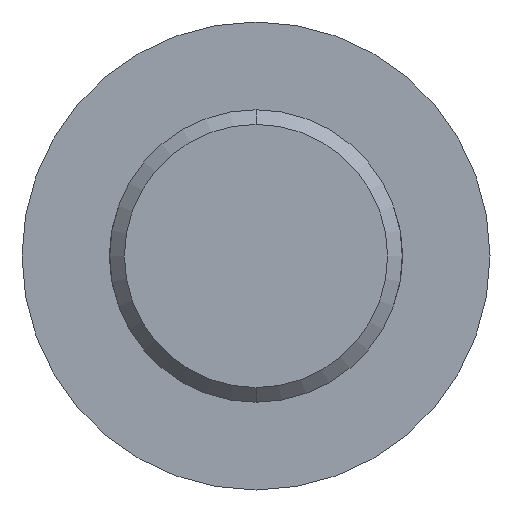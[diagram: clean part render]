
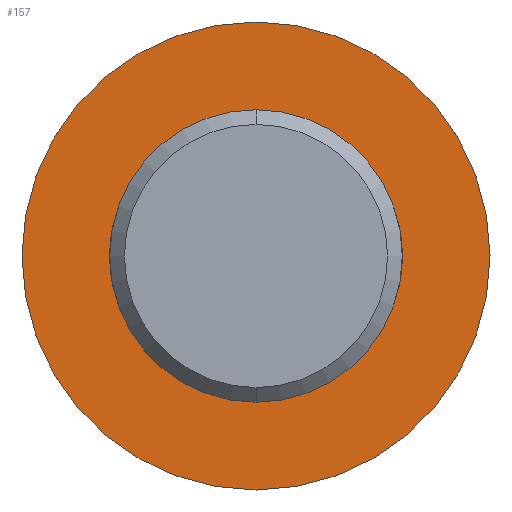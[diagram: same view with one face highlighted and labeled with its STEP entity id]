
A CAD part, front view. The second image highlights one B-rep face of the part: STEP entity #157.
In plain terms, the highlighted planar face has unit normal (0, -1, 0).
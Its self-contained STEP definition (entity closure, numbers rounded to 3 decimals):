
#13 = DIRECTION ( 'NONE',  ( 0., 0., 1. ) ) ;
#15 = CIRCLE ( 'NONE', #388, 2.5 ) ;
#19 = CARTESIAN_POINT ( 'NONE',  ( 0., 0., 0. ) ) ;
#33 = FACE_OUTER_BOUND ( 'NONE', #38, .T. ) ;
#34 = CIRCLE ( 'NONE', #91, 2.5 ) ;
#37 = FACE_BOUND ( 'NONE', #429, .T. ) ;
#38 = EDGE_LOOP ( 'NONE', ( #281, #428 ) ) ;
#43 = VERTEX_POINT ( 'NONE', #123 ) ;
#52 = EDGE_CURVE ( 'NONE', #159, #43, #34, .T. ) ;
#53 = DIRECTION ( 'NONE',  ( 0., 1., 0. ) ) ;
#56 = CARTESIAN_POINT ( 'NONE',  ( 0., 0., 4. ) ) ;
#77 = AXIS2_PLACEMENT_3D ( 'NONE', #170, #452, #201 ) ;
#87 = DIRECTION ( 'NONE',  ( 0., -1., 0. ) ) ;
#88 = DIRECTION ( 'NONE',  ( 0., -1., 0. ) ) ;
#91 = AXIS2_PLACEMENT_3D ( 'NONE', #261, #87, #398 ) ;
#96 = CIRCLE ( 'NONE', #154, 4. ) ;
#98 = CARTESIAN_POINT ( 'NONE',  ( 0., 0., -2.5 ) ) ;
#102 = VERTEX_POINT ( 'NONE', #56 ) ;
#123 = CARTESIAN_POINT ( 'NONE',  ( 0., 0., 2.5 ) ) ;
#132 = CIRCLE ( 'NONE', #181, 4. ) ;
#143 = ORIENTED_EDGE ( 'NONE', *, *, #394, .F. ) ;
#144 = CARTESIAN_POINT ( 'NONE',  ( 0., 0., 0. ) ) ;
#153 = DIRECTION ( 'NONE',  ( 0., 0., 1. ) ) ;
#154 = AXIS2_PLACEMENT_3D ( 'NONE', #144, #210, #13 ) ;
#157 = ADVANCED_FACE ( 'NONE', ( #37, #33 ), #308, .F. ) ;
#159 = VERTEX_POINT ( 'NONE', #98 ) ;
#170 = CARTESIAN_POINT ( 'NONE',  ( 0., 0., 0. ) ) ;
#181 = AXIS2_PLACEMENT_3D ( 'NONE', #395, #53, #153 ) ;
#201 = DIRECTION ( 'NONE',  ( 0., 0., 1. ) ) ;
#210 = DIRECTION ( 'NONE',  ( 0., 1., 0. ) ) ;
#261 = CARTESIAN_POINT ( 'NONE',  ( 0., 0., 0. ) ) ;
#277 = EDGE_CURVE ( 'NONE', #280, #102, #132, .T. ) ;
#280 = VERTEX_POINT ( 'NONE', #374 ) ;
#281 = ORIENTED_EDGE ( 'NONE', *, *, #277, .F. ) ;
#308 = PLANE ( 'NONE',  #77 ) ;
#325 = DIRECTION ( 'NONE',  ( 0., 0., -1. ) ) ;
#374 = CARTESIAN_POINT ( 'NONE',  ( 0., 0., -4. ) ) ;
#386 = ORIENTED_EDGE ( 'NONE', *, *, #52, .F. ) ;
#388 = AXIS2_PLACEMENT_3D ( 'NONE', #19, #88, #325 ) ;
#394 = EDGE_CURVE ( 'NONE', #43, #159, #15, .T. ) ;
#395 = CARTESIAN_POINT ( 'NONE',  ( 0., 0., 0. ) ) ;
#398 = DIRECTION ( 'NONE',  ( 0., 0., -1. ) ) ;
#428 = ORIENTED_EDGE ( 'NONE', *, *, #436, .F. ) ;
#429 = EDGE_LOOP ( 'NONE', ( #143, #386 ) ) ;
#436 = EDGE_CURVE ( 'NONE', #102, #280, #96, .T. ) ;
#452 = DIRECTION ( 'NONE',  ( 0., 1., 0. ) ) ;
